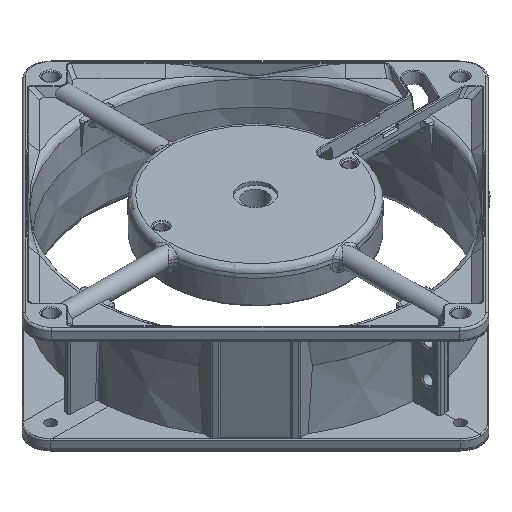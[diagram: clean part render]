
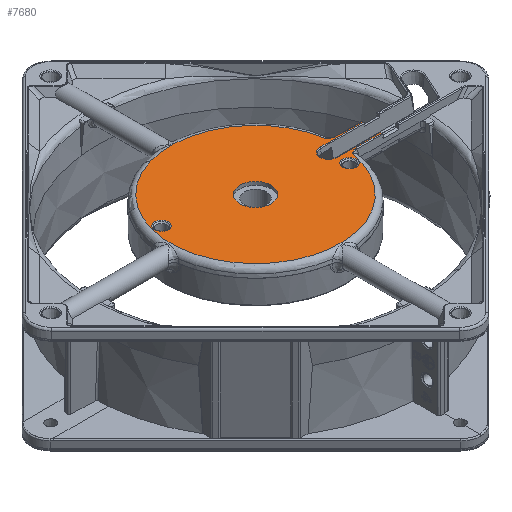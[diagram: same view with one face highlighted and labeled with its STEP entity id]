
A CAD part, isometric view. The second image highlights one B-rep face of the part: STEP entity #7680.
In plain terms, the highlighted planar face has unit normal (0, 0, 1).
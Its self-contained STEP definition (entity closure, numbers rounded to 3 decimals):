
#610=B_SPLINE_CURVE_WITH_KNOTS('',3,(#32545,#32546,#32547,#32548,#32549,
#32550,#32551,#32552,#32553,#32554,#32555,#32556,#32557),.UNSPECIFIED.,
 .F.,.F.,(4,3,3,3,4),(0.,0.233,0.615,0.997,
1.),.UNSPECIFIED.);
#611=B_SPLINE_CURVE_WITH_KNOTS('',3,(#32562,#32563,#32564,#32565,#32566,
#32567,#32568,#32569,#32570,#32571,#32572,#32573,#32574),.UNSPECIFIED.,
 .F.,.F.,(4,3,3,3,4),(0.,0.003,0.385,0.767,
1.),.UNSPECIFIED.);
#2956=LINE('',#32576,#4943);
#2957=LINE('',#32578,#4944);
#2958=LINE('',#32580,#4945);
#2959=LINE('',#32584,#4946);
#2960=LINE('',#32586,#4947);
#2961=LINE('',#32588,#4948);
#4943=VECTOR('',#25789,1.);
#4944=VECTOR('',#25790,1.);
#4945=VECTOR('',#25791,1.);
#4946=VECTOR('',#25794,1.);
#4947=VECTOR('',#25795,1.);
#4948=VECTOR('',#25796,1.);
#6896=PLANE('',#23963);
#7680=ADVANCED_FACE('',(#9131,#9132,#9133,#9134),#6896,.F.);
#9131=FACE_BOUND('',#9462,.T.);
#9132=FACE_BOUND('',#9463,.T.);
#9133=FACE_BOUND('',#9464,.T.);
#9134=FACE_BOUND('',#9465,.T.);
#9462=EDGE_LOOP('',(#11195));
#9463=EDGE_LOOP('',(#11196,#11197,#11198,#11199,#11200,#11201,#11202,#11203,
#11204,#11205));
#9464=EDGE_LOOP('',(#11206));
#9465=EDGE_LOOP('',(#11207));
#11195=ORIENTED_EDGE('',*,*,#20297,.F.);
#11196=ORIENTED_EDGE('',*,*,#20298,.T.);
#11197=ORIENTED_EDGE('',*,*,#20299,.T.);
#11198=ORIENTED_EDGE('',*,*,#20300,.T.);
#11199=ORIENTED_EDGE('',*,*,#20301,.T.);
#11200=ORIENTED_EDGE('',*,*,#20302,.F.);
#11201=ORIENTED_EDGE('',*,*,#20303,.T.);
#11202=ORIENTED_EDGE('',*,*,#20304,.T.);
#11203=ORIENTED_EDGE('',*,*,#20305,.T.);
#11204=ORIENTED_EDGE('',*,*,#20306,.F.);
#11205=ORIENTED_EDGE('',*,*,#20307,.T.);
#11206=ORIENTED_EDGE('',*,*,#20308,.T.);
#11207=ORIENTED_EDGE('',*,*,#20309,.F.);
#18003=VERTEX_POINT('',#32544);
#18004=VERTEX_POINT('',#32558);
#18005=VERTEX_POINT('',#32559);
#18006=VERTEX_POINT('',#32561);
#18007=VERTEX_POINT('',#32575);
#18008=VERTEX_POINT('',#32577);
#18009=VERTEX_POINT('',#32579);
#18010=VERTEX_POINT('',#32581);
#18011=VERTEX_POINT('',#32583);
#18012=VERTEX_POINT('',#32585);
#18013=VERTEX_POINT('',#32587);
#18014=VERTEX_POINT('',#32590);
#18015=VERTEX_POINT('',#32592);
#20297=EDGE_CURVE('',#18003,#18003,#23494,.T.);
#20298=EDGE_CURVE('',#18004,#18005,#610,.T.);
#20299=EDGE_CURVE('',#18005,#18006,#23495,.T.);
#20300=EDGE_CURVE('',#18006,#18007,#611,.T.);
#20301=EDGE_CURVE('',#18007,#18008,#2956,.T.);
#20302=EDGE_CURVE('',#18009,#18008,#2957,.T.);
#20303=EDGE_CURVE('',#18009,#18010,#2958,.T.);
#20304=EDGE_CURVE('',#18010,#18011,#23496,.T.);
#20305=EDGE_CURVE('',#18011,#18012,#2959,.T.);
#20306=EDGE_CURVE('',#18013,#18012,#2960,.T.);
#20307=EDGE_CURVE('',#18013,#18004,#2961,.T.);
#20308=EDGE_CURVE('',#18014,#18014,#23497,.T.);
#20309=EDGE_CURVE('',#18015,#18015,#23498,.T.);
#23494=CIRCLE('',#23958,2.491);
#23495=CIRCLE('',#23959,30.654);
#23496=CIRCLE('',#23960,3.129);
#23497=CIRCLE('',#23961,5.75);
#23498=CIRCLE('',#23962,2.491);
#23958=AXIS2_PLACEMENT_3D('',#32543,#25785,#25786);
#23959=AXIS2_PLACEMENT_3D('',#32560,#25787,#25788);
#23960=AXIS2_PLACEMENT_3D('',#32582,#25792,#25793);
#23961=AXIS2_PLACEMENT_3D('',#32589,#25797,#25798);
#23962=AXIS2_PLACEMENT_3D('',#32591,#25799,#25800);
#23963=AXIS2_PLACEMENT_3D('',#32593,#25801,#25802);
#25785=DIRECTION('',(0.,0.,1.));
#25786=DIRECTION('',(1.,0.,0.));
#25787=DIRECTION('',(0.,0.,1.));
#25788=DIRECTION('',(1.,0.,0.));
#25789=DIRECTION('',(1.,0.,0.));
#25790=DIRECTION('',(0.,-1.,0.));
#25791=DIRECTION('',(-1.,0.,0.));
#25792=DIRECTION('',(0.,0.,-1.));
#25793=DIRECTION('',(1.,0.,0.));
#25794=DIRECTION('',(1.,0.,0.));
#25795=DIRECTION('',(0.,-1.,0.));
#25796=DIRECTION('',(-1.,0.,0.));
#25797=DIRECTION('',(0.,0.,-1.));
#25798=DIRECTION('',(0.,1.,0.));
#25799=DIRECTION('',(0.,0.,1.));
#25800=DIRECTION('',(1.,0.,0.));
#25801=DIRECTION('',(0.,0.,-1.));
#25802=DIRECTION('',(0.707,0.707,0.));
#32543=CARTESIAN_POINT('',(-26.876,179.704,945.675));
#32544=CARTESIAN_POINT('',(-24.384,179.704,945.675));
#32545=CARTESIAN_POINT('',(32.647,176.126,945.675));
#32546=CARTESIAN_POINT('',(32.429,176.126,945.675));
#32547=CARTESIAN_POINT('',(32.209,176.163,945.675));
#32548=CARTESIAN_POINT('',(32.,176.226,945.675));
#32549=CARTESIAN_POINT('',(31.66,176.329,945.675));
#32550=CARTESIAN_POINT('',(31.339,176.502,945.675));
#32551=CARTESIAN_POINT('',(31.046,176.703,945.675));
#32552=CARTESIAN_POINT('',(30.75,176.905,945.675));
#32553=CARTESIAN_POINT('',(30.475,177.137,945.675));
#32554=CARTESIAN_POINT('',(30.203,177.369,945.675));
#32555=CARTESIAN_POINT('',(30.201,177.371,945.675));
#32556=CARTESIAN_POINT('',(30.199,177.373,945.675));
#32557=CARTESIAN_POINT('',(30.197,177.375,945.675));
#32558=CARTESIAN_POINT('',(32.647,176.126,945.675));
#32559=CARTESIAN_POINT('',(30.197,177.375,945.675));
#32560=CARTESIAN_POINT('',(-0.071,172.522,945.675));
#32561=CARTESIAN_POINT('',(30.197,167.67,945.675));
#32562=CARTESIAN_POINT('',(30.197,167.67,945.675));
#32563=CARTESIAN_POINT('',(30.199,167.671,945.675));
#32564=CARTESIAN_POINT('',(30.201,167.673,945.675));
#32565=CARTESIAN_POINT('',(30.203,167.675,945.675));
#32566=CARTESIAN_POINT('',(30.475,167.908,945.675));
#32567=CARTESIAN_POINT('',(30.75,168.14,945.675));
#32568=CARTESIAN_POINT('',(31.046,168.342,945.675));
#32569=CARTESIAN_POINT('',(31.339,168.542,945.675));
#32570=CARTESIAN_POINT('',(31.66,168.716,945.675));
#32571=CARTESIAN_POINT('',(32.,168.819,945.675));
#32572=CARTESIAN_POINT('',(32.209,168.882,945.675));
#32573=CARTESIAN_POINT('',(32.429,168.919,945.675));
#32574=CARTESIAN_POINT('',(32.647,168.919,945.675));
#32575=CARTESIAN_POINT('',(32.647,168.919,945.675));
#32576=CARTESIAN_POINT('',(42.126,168.919,945.675));
#32577=CARTESIAN_POINT('',(42.126,168.919,945.675));
#32578=CARTESIAN_POINT('',(42.126,169.402,945.675));
#32579=CARTESIAN_POINT('',(42.126,169.393,945.675));
#32580=CARTESIAN_POINT('',(-0.071,169.393,945.675));
#32581=CARTESIAN_POINT('',(26.379,169.393,945.675));
#32582=CARTESIAN_POINT('',(26.379,172.522,945.675));
#32583=CARTESIAN_POINT('',(26.379,175.651,945.675));
#32584=CARTESIAN_POINT('',(-0.071,175.651,945.675));
#32585=CARTESIAN_POINT('',(42.126,175.651,945.675));
#32586=CARTESIAN_POINT('',(42.126,176.128,945.675));
#32587=CARTESIAN_POINT('',(42.126,176.126,945.675));
#32588=CARTESIAN_POINT('',(32.411,176.126,945.675));
#32589=CARTESIAN_POINT('',(-0.071,172.522,945.675));
#32590=CARTESIAN_POINT('',(-0.071,178.272,945.675));
#32591=CARTESIAN_POINT('',(26.733,165.34,945.675));
#32592=CARTESIAN_POINT('',(29.224,165.34,945.675));
#32593=CARTESIAN_POINT('',(-0.071,172.522,945.675));
